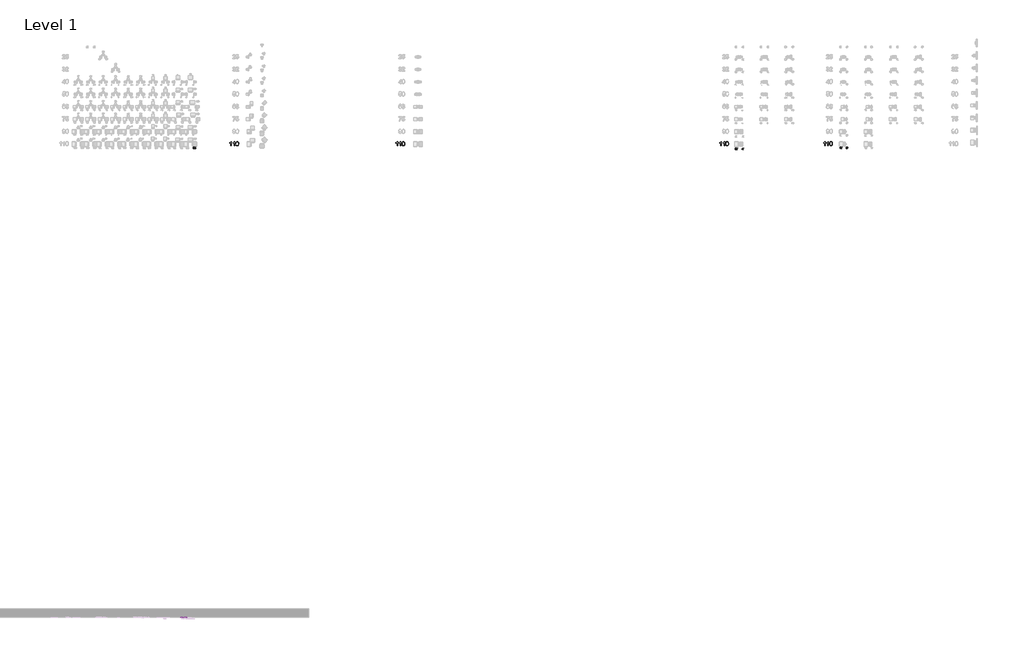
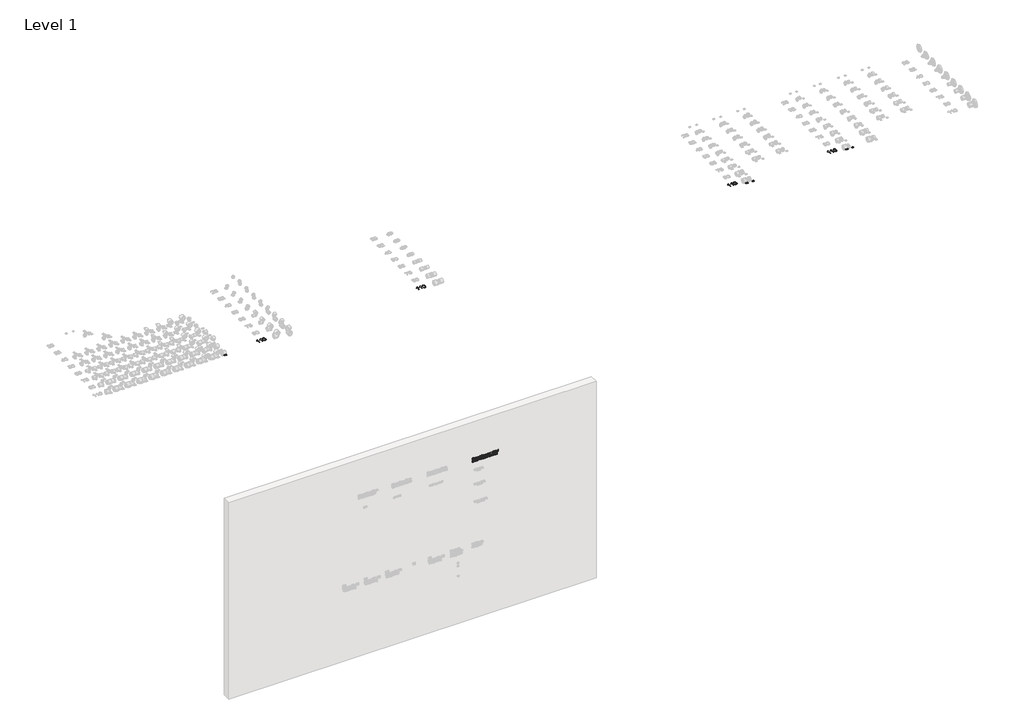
# One storey, part 18 of 58: 10 proxies.
"""IFC4 building model written with IfcOpenShell, lengths in millimetres."""

import ifcopenshell
import ifcopenshell.guid

model = None  # the IFC model being written
_history = None  # IfcOwnerHistory: only IFC2X3 demands one
_inside = {}  # id of a spatial element -> (the spatial element, [elements in it])
_under = {}  # id of a project, library or spatial element -> (it, [spatial elements below it])
_declared = {}  # id of a project -> (the project, [libraries it declares])
_typed = {}  # id of a type object -> (the type object, [elements of that type])
_made_of = {}  # id of a material, layer set ... -> (it, [elements and type objects made of it])


def new_model(schema):
    """Start an empty IFC model of exactly this schema.

    Asked for "IFC4X3", IfcOpenShell would pick the latest addendum, in which some entities
    have other attributes; the version numbers below select the first issue.
    IFC2X3 requires an IfcOwnerHistory on every rooted entity: one is made here for all.
    """
    global model, _history
    if schema == "IFC4X3":
        model = ifcopenshell.file(schema_version=(4, 3, 0, 0))
    else:
        model = ifcopenshell.file(schema=schema)
    _inside.clear()
    _under.clear()
    _declared.clear()
    _typed.clear()
    _made_of.clear()
    _history = None
    if model.schema == "IFC2X3":
        org = make("IfcOrganization", Name="unknown")
        user = make(
            "IfcPersonAndOrganization",
            ThePerson=make("IfcPerson", FamilyName="unknown"),
            TheOrganization=org,
        )
        app = make(
            "IfcApplication",
            ApplicationDeveloper=org,
            Version="unknown",
            ApplicationFullName="unknown",
            ApplicationIdentifier="unknown",
        )
        _history = make(
            "IfcOwnerHistory",
            OwningUser=user,
            OwningApplication=app,
            ChangeAction="ADDED",
            CreationDate=0,
        )
    return model


def make(cls, **values):
    """One entity of the class cls with the attributes given. An attribute that is None is left unset."""
    return model.create_entity(
        cls, **{name: value for name, value in values.items() if value is not None}
    )


def rooted(cls, **values):
    """An entity with a GlobalId (a new one), such as an element, a storey or a relation."""
    return make(cls, GlobalId=ifcopenshell.guid.new(), OwnerHistory=_history, **values)


def si_unit(unit_type, name, prefix=None):
    """IfcSIUnit, for example si_unit("LENGTHUNIT", "METRE", prefix="MILLI")."""
    return make("IfcSIUnit", UnitType=unit_type, Prefix=prefix, Name=name)


def assignment(units):
    """IfcUnitAssignment: the units of a project."""
    return None if units is None else make("IfcUnitAssignment", Units=units)


def point(xyz):
    """IfcCartesianPoint."""
    return None if xyz is None else make("IfcCartesianPoint", Coordinates=xyz)


def direction(xyz):
    """IfcDirection."""
    return None if xyz is None else make("IfcDirection", DirectionRatios=xyz)


def frame(location, z_axis=None, x_axis=None):
    """IfcAxis2Placement3D, a coordinate frame: its origin and axes. An axis left out is left unset."""
    return make(
        "IfcAxis2Placement3D",
        Location=point(location),
        Axis=direction(z_axis),
        RefDirection=direction(x_axis),
    )


def origin():
    """The frame at (0, 0, 0) with its axes left unset."""
    return frame((0.0, 0.0, 0.0))


def place(relative_to, where):
    """IfcLocalPlacement: puts the frame where relative to a parent placement (None: the world)."""
    return make(
        "IfcLocalPlacement", PlacementRelTo=relative_to, RelativePlacement=where
    )


def context(
    kind, dimensions, precision=None, world=None, true_north=None, identifier=None
):
    """IfcGeometricRepresentationContext, for example the 3D "Model" context."""
    return make(
        "IfcGeometricRepresentationContext",
        ContextIdentifier=identifier,
        ContextType=kind,
        CoordinateSpaceDimension=dimensions,
        Precision=precision,
        WorldCoordinateSystem=world,
        TrueNorth=true_north,
    )


def project(units=None, contexts=None):
    """IfcProject with its units and contexts."""
    return rooted(
        "IfcProject",
        Name="project",
        RepresentationContexts=contexts,
        UnitsInContext=assignment(units),
    )


def spatial(cls, under=None, at=None, **own):
    """A site, building, storey or space (cls), placed at a placement, below another one or the project."""
    s = rooted(cls, ObjectPlacement=at, **own)
    if under is not None:
        _under.setdefault(under.id(), (under, []))[1].append(s)
    return s


def polyline(points):
    """IfcPolyline through the points."""
    return make("IfcPolyline", Points=[point(p) for p in points])


def outline(outer, holes=None, kind="AREA"):
    """IfcArbitraryClosedProfileDef: a profile drawn as a closed curve; with holes, ...WithVoids."""
    if holes is None:
        return make("IfcArbitraryClosedProfileDef", ProfileType=kind, OuterCurve=outer)
    return make(
        "IfcArbitraryProfileDefWithVoids",
        ProfileType=kind,
        OuterCurve=outer,
        InnerCurves=holes,
    )


def extrude(swept, where, along, depth):
    """IfcExtrudedAreaSolid: the profile swept, set in the frame where, extruded along a direction by depth."""
    return make(
        "IfcExtrudedAreaSolid",
        SweptArea=swept,
        Position=where,
        ExtrudedDirection=direction(along),
        Depth=depth,
    )


def shape(context_of_items, identifier, shape_type, items):
    """IfcShapeRepresentation: the items that make up one representation, for example the "Body"."""
    return make(
        "IfcShapeRepresentation",
        ContextOfItems=context_of_items,
        RepresentationIdentifier=identifier,
        RepresentationType=shape_type,
        Items=items,
    )


def made_of(thing, what):
    """Note that an element or type object is made of a material, layer set ...; save() writes the relation."""
    if what is not None:
        _made_of.setdefault(what.id(), (what, []))[1].append(thing)
    return thing


def element(
    cls,
    number,
    at=None,
    inside=None,
    cuts=None,
    type_object=None,
    material=None,
    context=None,
    identifier="Body",
    shape_type=None,
    held_by="IfcProductDefinitionShape",
    body=None,
    shapes=None,
    **own,
):
    """One element of the class cls, such as IfcWall. Its Tag is "e" and its number.

    at: its placement. inside: the storey or other place that contains it. cuts: it is an
    opening in that element (IfcRelVoidsElement). A single representation is given by context,
    identifier, shape_type and body (its items); several are given by shapes. held_by: the class
    of the entity that holds the representations. save() writes the other relations.
    """
    e = rooted(cls, Tag="e%d" % number, ObjectPlacement=at, **own)
    if body is not None:
        shapes = [shape(context, identifier, shape_type, body)]
    if shapes is not None:
        e.Representation = make(held_by, Representations=shapes)
    if inside is not None:
        _inside.setdefault(inside.id(), (inside, []))[1].append(e)
    if cuts is not None:
        rooted(
            "IfcRelVoidsElement", RelatingBuildingElement=cuts, RelatedOpeningElement=e
        )
    if type_object is not None:
        _typed.setdefault(type_object.id(), (type_object, []))[1].append(e)
    return made_of(e, material)


def aggregate(whole, parts):
    """IfcRelAggregates: a whole, such as a stair, and the parts it consists of."""
    return rooted("IfcRelAggregates", RelatingObject=whole, RelatedObjects=parts)


def save(model, path):
    """Write the relations noted so far, then the file.

    IfcRelAggregates (storeys below a building ...), IfcRelContainedInSpatialStructure (elements
    in a storey), IfcRelDefinesByType, IfcRelAssociatesMaterial and IfcRelDeclares: one each for
    every whole, place, type object, material and project.
    """
    for whole, parts in _under.values():
        aggregate(whole, parts)
    for where, things in _inside.values():
        rooted(
            "IfcRelContainedInSpatialStructure",
            RelatedElements=things,
            RelatingStructure=where,
        )
    for kind, things in _typed.values():
        rooted("IfcRelDefinesByType", RelatedObjects=things, RelatingType=kind)
    for what, things in _made_of.values():
        rooted("IfcRelAssociatesMaterial", RelatedObjects=things, RelatingMaterial=what)
    for by, libraries in _declared.values():
        rooted("IfcRelDeclares", RelatingContext=by, RelatedDefinitions=libraries)
    model.write(path)


model = new_model("IFC4")

# Units and contexts
model_context = context("Model", 3, world=origin())
ifc_project = project(units=[si_unit("LENGTHUNIT", "METRE", prefix="MILLI")], contexts=[model_context])

# Site, building, storey
site = spatial("IfcSite", under=ifc_project)
building = spatial("IfcBuilding", under=site)
storey = spatial("IfcBuildingStorey", under=building, Name="Level 1", Elevation=27.3876384)

# Proxies
placement = place(None, origin())
element("IfcBuildingElementProxy", 1, Name="100mm Arial", ObjectType="100mm Arial", at=placement, inside=storey, context=model_context, shape_type="SweptSolid", body=[
    extrude(outline(polyline([(16954.6585102, 15906.196048), (16942.1014715, 15906.196048), (16942.1014715, 15984.4813365), (16930.2066203, 15976.0077879), (16916.9873939, 15969.6679549), (16916.9873939, 15981.5382806), (16935.3937564, 15993.285979), (16946.5651063, 16006.6523581), (16954.6585102, 16006.6523581), (16954.6585102, 15906.196048)])), frame((0.0, 0.0, 27.3876384), z_axis=(0.0, 0.0, 1.0), x_axis=(1.0, 0.0, 0.0)), (0.0, 0.0, 1.0), 2.0),
    extrude(outline(polyline([(17031.5703727, 15906.196048), (17019.0133339, 15906.196048), (17019.0133339, 15984.4813365), (17007.1184827, 15976.0077879), (16993.8992564, 15969.6679549), (16993.8992564, 15981.5382806), (17012.3056189, 15993.285979), (17023.4769688, 16006.6523581), (17031.5703727, 16006.6523581), (17031.5703727, 15906.196048)])), frame((0.0, 0.0, 27.3876384), z_axis=(0.0, 0.0, 1.0), x_axis=(1.0, 0.0, 0.0)), (0.0, 0.0, 1.0), 2.0),
    extrude(outline(polyline([(17061.3933398, 15955.6148627), (17065.0844224, 15984.5181247), (17076.0473059, 16001.1831791), (17094.3555665, 16006.6523581), (17109.0217954, 16003.4149966), (17119.150813, 15994.0830566), (17125.0369249, 15979.220624), (17127.3177933, 15955.6148627), (17123.6634988, 15926.8342279), (17112.7374036, 15910.1323853), (17104.5060439, 15906.0029099), (17094.3555665, 15904.6264181), (17081.3080184, 15907.0176511), (17071.39973, 15914.19135), (17063.8949373, 15931.1813668), (17061.3933398, 15955.6148627)]), holes=[polyline([(17073.9503785, 15955.6393881), (17075.4219065, 15935.8871907), (17079.8364905, 15924.4552577), (17086.4093154, 15919.0014071), (17094.3555665, 15917.1834569), (17102.3018176, 15919.0075385), (17108.8746426, 15924.4797831), (17113.2892265, 15935.9178475), (17114.7607545, 15955.6393881), (17113.3382775, 15974.9470615), (17109.0708463, 15986.4678993), (17102.5102841, 15992.1884643), (17094.2084137, 15994.0953193), (17086.3480018, 15992.4153249), (17080.0326942, 15987.3753416), (17075.4709574, 15975.1371339), (17073.9503785, 15955.6393881)])]), frame((0.0, 0.0, 27.3876384), z_axis=(0.0, 0.0, 1.0), x_axis=(1.0, 0.0, 0.0)), (0.0, 0.0, 1.0), 2.0),
])
element("IfcBuildingElementProxy", 2, Name="100mm Arial", ObjectType="100mm Arial", at=placement, inside=storey, context=model_context, shape_type="SweptSolid", body=[
    extrude(outline(polyline([(20954.6585102, 15906.196048), (20942.1014715, 15906.196048), (20942.1014715, 15984.4813365), (20930.2066203, 15976.0077879), (20916.9873939, 15969.6679549), (20916.9873939, 15981.5382806), (20935.3937564, 15993.285979), (20946.5651063, 16006.6523581), (20954.6585102, 16006.6523581), (20954.6585102, 15906.196048)])), frame((0.0, 0.0, 27.3876384), z_axis=(0.0, 0.0, 1.0), x_axis=(1.0, 0.0, 0.0)), (0.0, 0.0, 1.0), 2.0),
    extrude(outline(polyline([(21031.5703727, 15906.196048), (21019.0133339, 15906.196048), (21019.0133339, 15984.4813365), (21007.1184827, 15976.0077879), (20993.8992564, 15969.6679549), (20993.8992564, 15981.5382806), (21012.3056189, 15993.285979), (21023.4769688, 16006.6523581), (21031.5703727, 16006.6523581), (21031.5703727, 15906.196048)])), frame((0.0, 0.0, 27.3876384), z_axis=(0.0, 0.0, 1.0), x_axis=(1.0, 0.0, 0.0)), (0.0, 0.0, 1.0), 2.0),
    extrude(outline(polyline([(21061.3933398, 15955.6148627), (21065.0844224, 15984.5181247), (21076.0473059, 16001.1831791), (21094.3555665, 16006.6523581), (21109.0217954, 16003.4149966), (21119.150813, 15994.0830566), (21125.0369249, 15979.220624), (21127.3177933, 15955.6148627), (21123.6634988, 15926.8342279), (21112.7374036, 15910.1323853), (21104.5060439, 15906.0029099), (21094.3555665, 15904.6264181), (21081.3080184, 15907.0176511), (21071.39973, 15914.19135), (21063.8949373, 15931.1813668), (21061.3933398, 15955.6148627)]), holes=[polyline([(21073.9503785, 15955.6393881), (21075.4219065, 15935.8871907), (21079.8364905, 15924.4552577), (21086.4093154, 15919.0014071), (21094.3555665, 15917.1834569), (21102.3018176, 15919.0075385), (21108.8746426, 15924.4797831), (21113.2892265, 15935.9178475), (21114.7607545, 15955.6393881), (21113.3382775, 15974.9470615), (21109.0708463, 15986.4678993), (21102.5102841, 15992.1884643), (21094.2084137, 15994.0953193), (21086.3480018, 15992.4153249), (21080.0326942, 15987.3753416), (21075.4709574, 15975.1371339), (21073.9503785, 15955.6393881)])]), frame((0.0, 0.0, 27.3876384), z_axis=(0.0, 0.0, 1.0), x_axis=(1.0, 0.0, 0.0)), (0.0, 0.0, 1.0), 2.0),
])
element("IfcBuildingElementProxy", 3, Name="100mm Arial", ObjectType="100mm Arial", at=placement, inside=storey, context=model_context, shape_type="SweptSolid", body=[
    extrude(outline(polyline([(28754.6585102, 15906.196048), (28742.1014715, 15906.196048), (28742.1014715, 15984.4813365), (28730.2066203, 15976.0077879), (28716.9873939, 15969.6679549), (28716.9873939, 15981.5382806), (28735.3937564, 15993.285979), (28746.5651063, 16006.6523581), (28754.6585102, 16006.6523581), (28754.6585102, 15906.196048)])), frame((0.0, 0.0, 27.3876384), z_axis=(0.0, 0.0, 1.0), x_axis=(1.0, 0.0, 0.0)), (0.0, 0.0, 1.0), 2.0),
    extrude(outline(polyline([(28831.5703727, 15906.196048), (28819.0133339, 15906.196048), (28819.0133339, 15984.4813365), (28807.1184827, 15976.0077879), (28793.8992564, 15969.6679549), (28793.8992564, 15981.5382806), (28812.3056189, 15993.285979), (28823.4769688, 16006.6523581), (28831.5703727, 16006.6523581), (28831.5703727, 15906.196048)])), frame((0.0, 0.0, 27.3876384), z_axis=(0.0, 0.0, 1.0), x_axis=(1.0, 0.0, 0.0)), (0.0, 0.0, 1.0), 2.0),
    extrude(outline(polyline([(28861.3933398, 15955.6148627), (28865.0844224, 15984.5181247), (28876.0473059, 16001.1831791), (28894.3555665, 16006.6523581), (28909.0217954, 16003.4149966), (28919.150813, 15994.0830566), (28925.0369249, 15979.220624), (28927.3177933, 15955.6148627), (28923.6634988, 15926.8342279), (28912.7374036, 15910.1323853), (28904.5060439, 15906.0029099), (28894.3555665, 15904.6264181), (28881.3080184, 15907.0176511), (28871.39973, 15914.19135), (28863.8949373, 15931.1813668), (28861.3933398, 15955.6148627)]), holes=[polyline([(28873.9503785, 15955.6393881), (28875.4219065, 15935.8871907), (28879.8364905, 15924.4552577), (28886.4093154, 15919.0014071), (28894.3555665, 15917.1834569), (28902.3018176, 15919.0075385), (28908.8746426, 15924.4797831), (28913.2892265, 15935.9178475), (28914.7607545, 15955.6393881), (28913.3382775, 15974.9470615), (28909.0708463, 15986.4678993), (28902.5102841, 15992.1884643), (28894.2084137, 15994.0953193), (28886.3480018, 15992.4153249), (28880.0326942, 15987.3753416), (28875.4709574, 15975.1371339), (28873.9503785, 15955.6393881)])]), frame((0.0, 0.0, 27.3876384), z_axis=(0.0, 0.0, 1.0), x_axis=(1.0, 0.0, 0.0)), (0.0, 0.0, 1.0), 2.0),
])
element("IfcBuildingElementProxy", 4, Name="100mm Arial", ObjectType="100mm Arial", at=placement, inside=storey, context=model_context, shape_type="SweptSolid", body=[
    extrude(outline(polyline([(31254.6585102, 15906.196048), (31242.1014715, 15906.196048), (31242.1014715, 15984.4813365), (31230.2066203, 15976.0077879), (31216.9873939, 15969.6679549), (31216.9873939, 15981.5382806), (31235.3937564, 15993.285979), (31246.5651063, 16006.6523581), (31254.6585102, 16006.6523581), (31254.6585102, 15906.196048)])), frame((0.0, 0.0, 27.3876384), z_axis=(0.0, 0.0, 1.0), x_axis=(1.0, 0.0, 0.0)), (0.0, 0.0, 1.0), 2.0),
    extrude(outline(polyline([(31331.5703727, 15906.196048), (31319.0133339, 15906.196048), (31319.0133339, 15984.4813365), (31307.1184827, 15976.0077879), (31293.8992564, 15969.6679549), (31293.8992564, 15981.5382806), (31312.3056189, 15993.285979), (31323.4769688, 16006.6523581), (31331.5703727, 16006.6523581), (31331.5703727, 15906.196048)])), frame((0.0, 0.0, 27.3876384), z_axis=(0.0, 0.0, 1.0), x_axis=(1.0, 0.0, 0.0)), (0.0, 0.0, 1.0), 2.0),
    extrude(outline(polyline([(31361.3933398, 15955.6148627), (31365.0844224, 15984.5181247), (31376.0473059, 16001.1831791), (31394.3555665, 16006.6523581), (31409.0217954, 16003.4149966), (31419.150813, 15994.0830566), (31425.0369249, 15979.220624), (31427.3177933, 15955.6148627), (31423.6634988, 15926.8342279), (31412.7374036, 15910.1323853), (31404.5060439, 15906.0029099), (31394.3555665, 15904.6264181), (31381.3080184, 15907.0176511), (31371.39973, 15914.19135), (31363.8949373, 15931.1813668), (31361.3933398, 15955.6148627)]), holes=[polyline([(31373.9503785, 15955.6393881), (31375.4219065, 15935.8871907), (31379.8364905, 15924.4552577), (31386.4093154, 15919.0014071), (31394.3555665, 15917.1834569), (31402.3018176, 15919.0075385), (31408.8746426, 15924.4797831), (31413.2892265, 15935.9178475), (31414.7607545, 15955.6393881), (31413.3382775, 15974.9470615), (31409.0708463, 15986.4678993), (31402.5102841, 15992.1884643), (31394.2084137, 15994.0953193), (31386.3480018, 15992.4153249), (31380.0326942, 15987.3753416), (31375.4709574, 15975.1371339), (31373.9503785, 15955.6393881)])]), frame((0.0, 0.0, 27.3876384), z_axis=(0.0, 0.0, 1.0), x_axis=(1.0, 0.0, 0.0)), (0.0, 0.0, 1.0), 2.0),
])
element("IfcBuildingElementProxy", 5, Name="30mm Arial", ObjectType="30mm Arial", at=placement, inside=storey, context=model_context, shape_type="SweptSolid", body=[
    extrude(outline(polyline([(16041.4120986, 15842.5788539), (16037.644987, 15842.5788539), (16037.644987, 15866.0644405), (16034.0765317, 15863.5223759), (16030.1107637, 15861.620426), (16030.1107637, 15865.1815237), (16035.6326725, 15868.7058332), (16038.9840775, 15872.715747), (16041.4120986, 15872.715747), (16041.4120986, 15842.5788539)])), frame((0.0, 0.0, 27.3876384), z_axis=(0.0, 0.0, 1.0), x_axis=(1.0, 0.0, 0.0)), (0.0, 0.0, 1.0), 2.0),
    extrude(outline(polyline([(16064.4856574, 15842.5788539), (16060.7185457, 15842.5788539), (16060.7185457, 15866.0644405), (16057.1500904, 15863.5223759), (16053.1843225, 15861.620426), (16053.1843225, 15865.1815237), (16058.7062312, 15868.7058332), (16062.0576362, 15872.715747), (16064.4856574, 15872.715747), (16064.4856574, 15842.5788539)])), frame((0.0, 0.0, 27.3876384), z_axis=(0.0, 0.0, 1.0), x_axis=(1.0, 0.0, 0.0)), (0.0, 0.0, 1.0), 2.0),
    extrude(outline(polyline([(16073.4325475, 15857.4044983), (16074.5398723, 15866.075477), (16077.8287373, 15871.0749933), (16083.3212155, 15872.715747), (16087.7210842, 15871.7445385), (16090.7597895, 15868.9449565), (16092.525623, 15864.4862267), (16093.2098836, 15857.4044983), (16092.1135952, 15848.7703079), (16088.8357666, 15843.7597551), (16083.3212155, 15842.107965), (16076.4344646, 15844.9774445), (16073.4325475, 15857.4044983)]), holes=[polyline([(16077.1996591, 15857.411856), (16078.9654927, 15848.0566168), (16083.3212155, 15845.8750766), (16087.6769384, 15848.0639745), (16089.4427719, 15857.411856), (16087.7357995, 15866.6604093), (16083.2770697, 15868.9486353), (16079.0243538, 15866.932642), (16077.1996591, 15857.411856)])]), frame((0.0, 0.0, 27.3876384), z_axis=(0.0, 0.0, 1.0), x_axis=(1.0, 0.0, 0.0)), (0.0, 0.0, 1.0), 2.0),
])
element("IfcBuildingElementProxy", 6, Name="30mm Arial", ObjectType="30mm Arial", at=placement, inside=storey, context=model_context, shape_type="SweptSolid", body=[
    extrude(outline(polyline([(29096.6620986, 15819.4288539), (29092.894987, 15819.4288539), (29092.894987, 15842.9144405), (29089.3265317, 15840.3723759), (29085.3607637, 15838.470426), (29085.3607637, 15842.0315237), (29090.8826725, 15845.5558332), (29094.2340775, 15849.565747), (29096.6620986, 15849.565747), (29096.6620986, 15819.4288539)])), frame((0.0, 0.0, 27.3876384), z_axis=(0.0, 0.0, 1.0), x_axis=(1.0, 0.0, 0.0)), (0.0, 0.0, 1.0), 2.0),
    extrude(outline(polyline([(29119.7356574, 15819.4288539), (29115.9685457, 15819.4288539), (29115.9685457, 15842.9144405), (29112.4000904, 15840.3723759), (29108.4343225, 15838.470426), (29108.4343225, 15842.0315237), (29113.9562312, 15845.5558332), (29117.3076362, 15849.565747), (29119.7356574, 15849.565747), (29119.7356574, 15819.4288539)])), frame((0.0, 0.0, 27.3876384), z_axis=(0.0, 0.0, 1.0), x_axis=(1.0, 0.0, 0.0)), (0.0, 0.0, 1.0), 2.0),
    extrude(outline(polyline([(29128.6825475, 15834.2544983), (29129.7898723, 15842.925477), (29133.0787373, 15847.9249933), (29138.5712155, 15849.565747), (29142.9710842, 15848.5945385), (29146.0097895, 15845.7949565), (29147.775623, 15841.3362267), (29148.4598836, 15834.2544983), (29147.3635952, 15825.6203079), (29144.0857666, 15820.6097551), (29138.5712155, 15818.957965), (29131.6844646, 15821.8274445), (29128.6825475, 15834.2544983)]), holes=[polyline([(29132.4496591, 15834.261856), (29134.2154927, 15824.9066168), (29138.5712155, 15822.7250766), (29142.9269384, 15824.9139745), (29144.6927719, 15834.261856), (29142.9857995, 15843.5104093), (29138.5270697, 15845.7986353), (29134.2743538, 15843.782642), (29132.4496591, 15834.261856)])]), frame((0.0, 0.0, 27.3876384), z_axis=(0.0, 0.0, 1.0), x_axis=(1.0, 0.0, 0.0)), (0.0, 0.0, 1.0), 2.0),
])
element("IfcBuildingElementProxy", 7, Name="30mm Arial", ObjectType="30mm Arial", at=placement, inside=storey, context=model_context, shape_type="SweptSolid", body=[
    extrude(outline(polyline([(29263.5285428, 15819.4288539), (29263.5285428, 15826.4921882), (29249.8727632, 15826.4921882), (29249.8727632, 15830.2592999), (29264.4703207, 15849.094858), (29267.2956545, 15849.094858), (29267.2956545, 15830.2592999), (29271.0627661, 15830.2592999), (29271.0627661, 15826.4921882), (29267.2956545, 15826.4921882), (29267.2956545, 15819.4288539), (29263.5285428, 15819.4288539)]), holes=[polyline([(29263.5285428, 15830.2592999), (29263.5285428, 15841.8990862), (29254.5080763, 15830.2592999), (29263.5285428, 15830.2592999)])]), frame((0.0, 0.0, 27.3876384), z_axis=(0.0, 0.0, 1.0), x_axis=(1.0, 0.0, 0.0)), (0.0, 0.0, 1.0), 2.0),
    extrude(outline(polyline([(29274.3589888, 15834.2544983), (29275.4663136, 15842.925477), (29278.7551786, 15847.9249933), (29284.2476568, 15849.565747), (29288.6475255, 15848.5945385), (29291.6862307, 15845.7949565), (29293.4520643, 15841.3362267), (29294.1363248, 15834.2544983), (29293.0400365, 15825.6203079), (29289.7622079, 15820.6097551), (29284.2476568, 15818.957965), (29277.3609058, 15821.8274445), (29274.3589888, 15834.2544983)]), holes=[polyline([(29278.1261004, 15834.261856), (29279.891934, 15824.9066168), (29284.2476568, 15822.7250766), (29288.6033796, 15824.9139745), (29290.3692132, 15834.261856), (29288.6622407, 15843.5104093), (29284.203511, 15845.7986353), (29279.9507951, 15843.782642), (29278.1261004, 15834.261856)])]), frame((0.0, 0.0, 27.3876384), z_axis=(0.0, 0.0, 1.0), x_axis=(1.0, 0.0, 0.0)), (0.0, 0.0, 1.0), 2.0),
])
element("IfcBuildingElementProxy", 8, Name="30mm Arial", ObjectType="30mm Arial", at=placement, inside=storey, context=model_context, shape_type="SweptSolid", body=[
    extrude(outline(polyline([(31616.6620986, 15843.5788539), (31612.894987, 15843.5788539), (31612.894987, 15867.0644405), (31609.3265317, 15864.5223759), (31605.3607637, 15862.620426), (31605.3607637, 15866.1815237), (31610.8826725, 15869.7058332), (31614.2340775, 15873.715747), (31616.6620986, 15873.715747), (31616.6620986, 15843.5788539)])), frame((0.0, 0.0, 27.3876384), z_axis=(0.0, 0.0, 1.0), x_axis=(1.0, 0.0, 0.0)), (0.0, 0.0, 1.0), 2.0),
    extrude(outline(polyline([(31639.7356574, 15843.5788539), (31635.9685457, 15843.5788539), (31635.9685457, 15867.0644405), (31632.4000904, 15864.5223759), (31628.4343225, 15862.620426), (31628.4343225, 15866.1815237), (31633.9562312, 15869.7058332), (31637.3076362, 15873.715747), (31639.7356574, 15873.715747), (31639.7356574, 15843.5788539)])), frame((0.0, 0.0, 27.3876384), z_axis=(0.0, 0.0, 1.0), x_axis=(1.0, 0.0, 0.0)), (0.0, 0.0, 1.0), 2.0),
    extrude(outline(polyline([(31648.6825475, 15858.4044983), (31649.7898723, 15867.075477), (31653.0787373, 15872.0749933), (31658.5712155, 15873.715747), (31662.9710842, 15872.7445385), (31666.0097895, 15869.9449565), (31667.775623, 15865.4862267), (31668.4598836, 15858.4044983), (31667.3635952, 15849.7703079), (31664.0857666, 15844.7597551), (31658.5712155, 15843.107965), (31651.6844646, 15845.9774445), (31648.6825475, 15858.4044983)]), holes=[polyline([(31652.4496591, 15858.411856), (31654.2154927, 15849.0566168), (31658.5712155, 15846.8750766), (31662.9269384, 15849.0639745), (31664.6927719, 15858.411856), (31662.9857995, 15867.6604093), (31658.5270697, 15869.9486353), (31654.2743538, 15867.932642), (31652.4496591, 15858.411856)])]), frame((0.0, 0.0, 27.3876384), z_axis=(0.0, 0.0, 1.0), x_axis=(1.0, 0.0, 0.0)), (0.0, 0.0, 1.0), 2.0),
])
element("IfcBuildingElementProxy", 9, Name="30mm Arial", ObjectType="30mm Arial", at=placement, inside=storey, context=model_context, shape_type="SweptSolid", body=[
    extrude(outline(polyline([(31770.4120986, 15843.5788539), (31766.644987, 15843.5788539), (31766.644987, 15867.0644405), (31763.0765317, 15864.5223759), (31759.1107637, 15862.620426), (31759.1107637, 15866.1815237), (31764.6326725, 15869.7058332), (31767.9840775, 15873.715747), (31770.4120986, 15873.715747), (31770.4120986, 15843.5788539)])), frame((0.0, 0.0, 27.3876384), z_axis=(0.0, 0.0, 1.0), x_axis=(1.0, 0.0, 0.0)), (0.0, 0.0, 1.0), 2.0),
    extrude(outline(polyline([(31779.3589888, 15851.5839661), (31783.1261004, 15852.0548551), (31785.0243715, 15848.1737001), (31788.9607088, 15846.8750766), (31793.6843137, 15848.6813772), (31795.3692132, 15853.4748796), (31793.7909994, 15857.9483247), (31789.01957, 15859.5890784), (31785.7123108, 15858.9342484), (31783.5969893, 15857.2346336), (31779.8298777, 15857.7055225), (31783.1261004, 15873.244858), (31797.723658, 15873.244858), (31797.723658, 15869.4777464), (31786.1721633, 15869.4777464), (31784.5608402, 15861.1783286), (31790.0717125, 15863.35619), (31796.5133262, 15860.6559361), (31799.1363248, 15853.7103241), (31796.7745224, 15846.7205662), (31788.9459936, 15843.107965), (31782.2983659, 15845.4293004), (31779.3589888, 15851.5839661)])), frame((0.0, 0.0, 27.3876384), z_axis=(0.0, 0.0, 1.0), x_axis=(1.0, 0.0, 0.0)), (0.0, 0.0, 1.0), 2.0),
])
element("IfcBuildingElementProxy", 10, Name="50mm Arial", ObjectType="50mm Arial", at=placement, inside=storey, context=model_context, shape_type="SweptSolid", body=[
    extrude(outline(polyline([(4249.9344329, 15717.0076035), (4236.6687833, 15723.1691404), (4232.1203799, 15737.9720111), (4233.9675757, 15749.0235561), (4239.6103795, 15755.8809543), (4247.7582844, 15758.3038174), (4255.8176251, 15756.2541891), (4260.9606738, 15750.5860813), (4264.5538493, 15739.4080161), (4267.8750062, 15729.8873663), (4270.9241445, 15728.3438191), (4274.036543, 15730.0391906), (4275.8457827, 15737.3014537), (4274.1440852, 15744.0386577), (4268.5582156, 15746.9676018), (4268.5582156, 15756.684358), (4280.3372521, 15751.6045694), (4284.7528093, 15737.1875855), (4282.9815256, 15727.1798327), (4277.8321509, 15720.8285155), (4270.5698878, 15718.6270629), (4260.3343985, 15723.4221809), (4255.3621522, 15735.2897815), (4253.1986557, 15743.716031), (4251.0161812, 15747.5053129), (4247.9733688, 15748.5870612), (4243.1086647, 15745.9807437), (4241.0274064, 15738.2250516), (4243.3806833, 15730.5199676), (4250.7441626, 15726.7243597), (4249.9344329, 15717.0076035)])), frame((0.0, 4542.8703674, 0.0), z_axis=(0.0, 1.0, 0.0), x_axis=(0.0, 0.0, 1.0)), (0.0, 0.0, 1.0), 2.0),
    extrude(outline(polyline([(4232.9301096, 15789.883275), (4232.9301096, 15799.6000312), (4270.177675, 15799.6000312), (4270.177675, 15789.883275), (4254.3752941, 15789.883275), (4244.2599991, 15789.1684355), (4240.7996699, 15786.51151), (4239.407947, 15782.1149308), (4240.4517392, 15778.5660375), (4243.2731411, 15776.6429295), (4252.9582672, 15776.1178704), (4270.177675, 15776.1178704), (4270.177675, 15766.4011142), (4246.632254, 15766.4011142), (4238.3894589, 15767.6663168), (4233.7651433, 15771.7655733), (4232.1203799, 15778.1548466), (4233.7967734, 15784.8034864), (4238.3957849, 15789.883275), (4232.9301096, 15789.883275)])), frame((0.0, 4542.8703674, 0.0), z_axis=(0.0, 1.0, 0.0), x_axis=(0.0, 0.0, 1.0)), (0.0, 0.0, 1.0), 2.0),
    extrude(outline(polyline([(4270.177675, 15809.3167874), (4219.164705, 15809.3167874), (4219.164705, 15819.0335435), (4237.446883, 15819.0335435), (4233.3223224, 15824.1955703), (4232.1203799, 15829.6738977), (4237.2824066, 15840.4850541), (4251.7689767, 15844.9448934), (4265.9076161, 15840.6242264), (4270.9874047, 15830.1167186), (4269.2793811, 15823.6515331), (4264.8132158, 15819.0335435), (4270.177675, 15819.0335435), (4270.177675, 15809.3167874)]), holes=[polyline([(4252.1991456, 15819.0335435), (4260.7961975, 15821.3678424), (4263.6998375, 15827.2320566), (4260.7392634, 15832.9317944), (4251.6804125, 15835.2281372), (4242.273631, 15832.9950546), (4239.407947, 15827.4091849), (4242.5329975, 15821.4690586), (4252.1991456, 15819.0335435)])]), frame((0.0, 4542.8703674, 0.0), z_axis=(0.0, 1.0, 0.0), x_axis=(0.0, 0.0, 1.0)), (0.0, 0.0, 1.0), 2.0),
    extrude(outline(polyline([(4244.2663251, 15873.2854323), (4240.5592814, 15870.9954155), (4239.407947, 15867.2630678), (4241.9636563, 15861.8100444), (4249.1247032, 15859.5200277), (4249.1247032, 15883.8119181), (4265.6102935, 15879.3204488), (4270.9874047, 15866.5039462), (4265.7494658, 15854.5351293), (4251.2755477, 15849.8032715), (4238.4590451, 15853.3711429), (4233.7050462, 15859.1119998), (4232.1203799, 15867.3010238), (4234.8089355, 15877.2075604), (4242.6468658, 15883.0021885), (4244.2663251, 15873.2854323)]), holes=[polyline([(4254.792811, 15874.095162), (4254.792811, 15859.684504), (4261.3086045, 15861.7088282), (4263.6998375, 15866.921463), (4261.4287988, 15871.9316655), (4254.792811, 15874.095162)])]), frame((0.0, 4542.8703674, 0.0), z_axis=(0.0, 1.0, 0.0), x_axis=(0.0, 0.0, 1.0)), (0.0, 0.0, 1.0), 2.0),
    extrude(outline(polyline([(4232.9301096, 15900.8162415), (4244.0765447, 15900.8162415), (4256.1718819, 15901.6196451), (4260.1635962, 15903.8210977), (4261.2706485, 15907.2434708), (4259.6891452, 15911.7475922), (4268.9377764, 15914.5816461), (4270.9874047, 15908.6225417), (4269.8297442, 15904.7004135), (4264.9903442, 15900.8162415), (4270.177675, 15900.8162415), (4270.177675, 15891.0994853), (4232.9301096, 15891.0994853), (4232.9301096, 15900.8162415)])), frame((0.0, 4542.8703674, 0.0), z_axis=(0.0, 1.0, 0.0), x_axis=(0.0, 0.0, 1.0)), (0.0, 0.0, 1.0), 2.0),
    extrude(outline(polyline([(4270.177675, 15918.6302945), (4219.164705, 15918.6302945), (4219.164705, 15928.3470507), (4237.446883, 15928.3470507), (4233.3223224, 15933.5090774), (4232.1203799, 15938.9874048), (4237.2824066, 15949.7985613), (4251.7689767, 15954.2584005), (4265.9076161, 15949.9377335), (4270.9874047, 15939.4302257), (4269.2793811, 15932.9650403), (4264.8132158, 15928.3470507), (4270.177675, 15928.3470507), (4270.177675, 15918.6302945)]), holes=[polyline([(4252.1991456, 15928.3470507), (4260.7961975, 15930.6813495), (4263.6998375, 15936.5455637), (4260.7392634, 15942.2453016), (4251.6804125, 15944.5416443), (4242.273631, 15942.3085617), (4239.407947, 15936.7226921), (4242.5329975, 15930.7825657), (4252.1991456, 15928.3470507)])]), frame((0.0, 4542.8703674, 0.0), z_axis=(0.0, 1.0, 0.0), x_axis=(0.0, 0.0, 1.0)), (0.0, 0.0, 1.0), 2.0),
    extrude(outline(polyline([(15971.2627239, 4542.8703674), (15961.5459677, 4542.8703674), (15961.5459677, 4544.8703674), (15971.2627239, 4544.8703674), (15971.2627239, 4542.8703674)])), frame((0.0, 0.0, 4275.0360531), z_axis=(0.0, 0.0, 1.0), x_axis=(1.0, 0.0, 0.0)), (0.0, 0.0, 1.0), 8.9070265),
    extrude(outline(polyline([(15971.2627239, 4542.8703674), (15961.5459677, 4542.8703674), (15961.5459677, 4544.8703674), (15971.2627239, 4544.8703674), (15971.2627239, 4542.8703674)])), frame((0.0, 0.0, 4232.9301096), z_axis=(0.0, 0.0, 1.0), x_axis=(1.0, 0.0, 0.0)), (0.0, 0.0, 1.0), 37.2475654),
    extrude(outline(polyline([(4270.177675, 15980.97948), (4219.164705, 15980.97948), (4219.164705, 15990.6962362), (4237.446883, 15990.6962362), (4233.3223224, 15995.858263), (4232.1203799, 16001.3365903), (4237.2824066, 16012.1477468), (4251.7689767, 16016.6075861), (4265.9076161, 16012.2869191), (4270.9874047, 16001.7794113), (4269.2793811, 15995.3142258), (4264.8132158, 15990.6962362), (4270.177675, 15990.6962362), (4270.177675, 15980.97948)]), holes=[polyline([(4252.1991456, 15990.6962362), (4260.7961975, 15993.0305351), (4263.6998375, 15998.8947493), (4260.7392634, 16004.5944871), (4251.6804125, 16006.8908299), (4242.273631, 16004.6577472), (4239.407947, 15999.0718776), (4242.5329975, 15993.1317513), (4252.1991456, 15990.6962362)])]), frame((0.0, 4542.8703674, 0.0), z_axis=(0.0, 1.0, 0.0), x_axis=(0.0, 0.0, 1.0)), (0.0, 0.0, 1.0), 2.0),
    extrude(outline(polyline([(4244.2663251, 16044.948125), (4240.5592814, 16042.6581082), (4239.407947, 16038.9257604), (4241.9636563, 16033.4727371), (4249.1247032, 16031.1827204), (4249.1247032, 16055.4746108), (4265.6102935, 16050.9831415), (4270.9874047, 16038.1666389), (4265.7494658, 16026.197822), (4251.2755477, 16021.4659642), (4238.4590451, 16025.0338356), (4233.7050462, 16030.7746925), (4232.1203799, 16038.9637165), (4234.8089355, 16048.8702531), (4242.6468658, 16054.6648812), (4244.2663251, 16044.948125)]), holes=[polyline([(4254.792811, 16045.7578546), (4254.792811, 16031.3471967), (4261.3086045, 16033.3715209), (4263.6998375, 16038.5841557), (4261.4287988, 16043.5943581), (4254.792811, 16045.7578546)])]), frame((0.0, 4542.8703674, 0.0), z_axis=(0.0, 1.0, 0.0), x_axis=(0.0, 0.0, 1.0)), (0.0, 0.0, 1.0), 2.0),
    extrude(outline(polyline([(4270.177675, 16081.3859607), (4232.9301096, 16081.3859607), (4232.9301096, 16091.1027169), (4251.1616795, 16091.1027169), (4258.8983935, 16091.8618384), (4262.4662649, 16094.3669396), (4263.6998375, 16098.3017198), (4262.9217379, 16101.1800558), (4260.555809, 16102.7425811), (4253.4896523, 16103.2486621), (4232.9301096, 16103.2486621), (4232.9301096, 16112.9654183), (4250.946595, 16112.9654183), (4258.7022871, 16113.7435179), (4262.4283089, 16116.2865752), (4263.6998375, 16120.050553), (4261.5742971, 16124.1245055), (4254.3752941, 16125.1113635), (4232.9301096, 16125.1113635), (4232.9301096, 16134.8281197), (4256.728571, 16134.8281197), (4264.433655, 16133.8412617), (4269.3236632, 16129.691397), (4270.9874047, 16122.922563), (4269.5640517, 16116.9950887), (4265.2560367, 16111.8267359), (4269.5640517, 16107.7844135), (4270.9874047, 16101.9708074), (4265.1927766, 16091.1027169), (4270.177675, 16091.1027169), (4270.177675, 16081.3859607)])), frame((0.0, 4542.8703674, 0.0), z_axis=(0.0, 1.0, 0.0), x_axis=(0.0, 0.0, 1.0)), (0.0, 0.0, 1.0), 2.0),
    extrude(outline(polyline([(4258.8414594, 16152.6421727), (4262.6244153, 16154.691801), (4263.6998375, 16158.2217163), (4262.4472869, 16162.7701198), (4257.222, 16163.9783883), (4254.805463, 16154.9321895), (4252.5154463, 16147.5307541), (4248.7324904, 16143.5390398), (4243.1149907, 16142.1156869), (4235.2391044, 16145.3103235), (4232.1203799, 16154.0465477), (4233.4045606, 16159.9550439), (4236.017204, 16165.4966314), (4232.9301096, 16166.4075773), (4232.9301096, 16176.1243335), (4237.92766, 16174.2075515), (4245.164619, 16173.6951445), (4256.6526589, 16173.6951445), (4265.4647952, 16172.4552459), (4269.4248794, 16168.178861), (4270.9874047, 16158.9302298), (4268.4063913, 16148.6251544), (4260.4609188, 16143.7351462), (4258.8414594, 16152.6421727)]), holes=[polyline([(4249.9344329, 16163.9783883), (4248.1758013, 16163.9783883), (4243.8867643, 16163.6241316), (4240.9767983, 16161.4732871), (4239.407947, 16156.8299934), (4240.7553878, 16153.243144), (4243.9500245, 16151.8324431), (4247.0497709, 16153.5910747), (4248.5869921, 16158.5000609), (4249.9344329, 16163.9783883)])]), frame((0.0, 4542.8703674, 0.0), z_axis=(0.0, 1.0, 0.0), x_axis=(0.0, 0.0, 1.0)), (0.0, 0.0, 1.0), 2.0),
    extrude(outline(polyline([(4232.9301096, 16216.6108177), (4256.0580136, 16216.6108177), (4262.6813494, 16216.0984106), (4266.812236, 16214.2701928), (4269.8107662, 16210.3986727), (4270.9874047, 16204.755869), (4269.4438574, 16198.3444547), (4264.8132158, 16193.1286569), (4270.177675, 16193.1286569), (4270.177675, 16183.4119007), (4232.9301096, 16183.4119007), (4232.9301096, 16193.1286569), (4249.9217809, 16193.1286569), (4258.5441368, 16193.8561484), (4262.2891366, 16196.55103), (4263.6998375, 16200.9982172), (4262.7129795, 16204.3003961), (4259.9421857, 16206.2867642), (4252.0726253, 16206.8940615), (4232.9301096, 16206.8940615), (4232.9301096, 16216.6108177)])), frame((0.0, 4542.8703674, 0.0), z_axis=(0.0, 1.0, 0.0), x_axis=(0.0, 0.0, 1.0)), (0.0, 0.0, 1.0), 2.0),
    extrude(outline(polyline([(16236.04433, 4542.8703674), (16226.3275738, 4542.8703674), (16226.3275738, 4544.8703674), (16236.04433, 4544.8703674), (16236.04433, 4542.8703674)])), frame((0.0, 0.0, 4232.9301096), z_axis=(0.0, 0.0, 1.0), x_axis=(1.0, 0.0, 0.0)), (0.0, 0.0, 1.0), 37.2475654),
    extrude(outline(polyline([(16236.04433, 4542.8703674), (16226.3275738, 4542.8703674), (16226.3275738, 4544.8703674), (16236.04433, 4544.8703674), (16236.04433, 4542.8703674)])), frame((0.0, 0.0, 4275.0360531), z_axis=(0.0, 0.0, 1.0), x_axis=(1.0, 0.0, 0.0)), (0.0, 0.0, 1.0), 8.9070265),
    extrude(outline(polyline([(4270.177675, 16241.7124378), (4262.8901078, 16241.7124378), (4262.8901078, 16246.5708159), (4232.9301096, 16246.5708159), (4232.9301096, 16256.2875721), (4262.8901078, 16256.2875721), (4262.8901078, 16263.5751392), (4270.177675, 16263.5751392), (4270.177675, 16256.2875721), (4272.7460363, 16256.2875721), (4276.4910361, 16257.217496), (4277.4652421, 16260.2729604), (4276.921205, 16264.7897338), (4283.5382147, 16266.0043283), (4284.7528093, 16257.8817274), (4283.3421083, 16251.1888055), (4279.6919987, 16247.557674), (4272.8978606, 16246.5708159), (4270.177675, 16246.5708159), (4270.177675, 16241.7124378)])), frame((0.0, 4542.8703674, 0.0), z_axis=(0.0, 1.0, 0.0), x_axis=(0.0, 0.0, 1.0)), (0.0, 0.0, 1.0), 2.0),
    extrude(outline(polyline([(4252.0852774, 16266.814058), (4241.2045348, 16269.211617), (4234.4293747, 16276.2081875), (4232.1203799, 16285.8806616), (4237.6682934, 16299.4689378), (4251.6551085, 16304.871353), (4265.5090773, 16299.5258719), (4270.9874047, 16285.8047494), (4268.5708676, 16275.9994291), (4261.5679711, 16269.211617), (4252.0852774, 16266.814058)]), holes=[polyline([(4251.5538923, 16276.5308142), (4260.568461, 16279.2193697), (4263.6998375, 16285.8553575), (4260.568461, 16292.4786933), (4251.6298044, 16295.1545969), (4242.5393235, 16292.4786933), (4239.407947, 16285.8553575), (4242.5393235, 16279.2193697), (4251.5538923, 16276.5308142)])]), frame((0.0, 4542.8703674, 0.0), z_axis=(0.0, 1.0, 0.0), x_axis=(0.0, 0.0, 1.0)), (0.0, 0.0, 1.0), 2.0),
    extrude(outline(polyline([(16321.8756764, 4542.8703674), (16312.1589202, 4542.8703674), (16312.1589202, 4544.8703674), (16321.8756764, 4544.8703674), (16321.8756764, 4542.8703674)])), frame((0.0, 0.0, 4232.9301096), z_axis=(0.0, 0.0, 1.0), x_axis=(1.0, 0.0, 0.0)), (0.0, 0.0, 1.0), 51.01297),
    extrude(outline(polyline([(4232.9301096, 16364.7913496), (4283.9430796, 16364.7913496), (4283.9430796, 16355.0745934), (4265.8886381, 16355.0745934), (4270.9874047, 16344.5228034), (4266.0657664, 16333.5155406), (4251.6930646, 16329.1632435), (4237.2824066, 16333.5218666), (4232.1203799, 16343.9914183), (4233.6449491, 16349.9441967), (4238.2945687, 16355.0745934), (4232.9301096, 16355.0745934), (4232.9301096, 16364.7913496)]), holes=[polyline([(4252.2624057, 16338.8799997), (4260.8278275, 16341.2079725), (4263.6998375, 16346.9772965), (4260.7961975, 16352.8035546), (4251.2881997, 16355.0745934), (4242.3874992, 16352.7339685), (4239.407947, 16347.0405567), (4243.3806833, 16340.4994591), (4252.2624057, 16338.8799997)])]), frame((0.0, 4542.8703674, 0.0), z_axis=(0.0, 1.0, 0.0), x_axis=(0.0, 0.0, 1.0)), (0.0, 0.0, 1.0), 2.0),
    extrude(outline(polyline([(4207.222, 15718.6270629), (4169.9744347, 15718.6270629), (4169.9744347, 15728.3438191), (4188.2060045, 15728.3438191), (4195.9427186, 15729.1029407), (4199.51059, 15731.6080419), (4200.7441626, 15735.5428221), (4199.966063, 15738.421158), (4197.6001341, 15739.9836833), (4190.5339774, 15740.4897643), (4169.9744347, 15740.4897643), (4169.9744347, 15750.2065205), (4187.9909201, 15750.2065205), (4195.7466122, 15750.9846201), (4199.4726339, 15753.5276774), (4200.7441626, 15757.2916553), (4198.6186222, 15761.3656077), (4191.4196192, 15762.3524658), (4169.9744347, 15762.3524658), (4169.9744347, 15772.069222), (4193.7728961, 15772.069222), (4201.4779801, 15771.0823639), (4206.3679883, 15766.9324993), (4208.0317297, 15760.1636652), (4206.6083768, 15754.2361909), (4202.3003618, 15749.0678382), (4206.6083768, 15745.0255158), (4208.0317297, 15739.2119097), (4202.2371017, 15728.3438191), (4207.222, 15728.3438191), (4207.222, 15718.6270629)])), frame((0.0, 4542.8703674, 0.0), z_axis=(0.0, 1.0, 0.0), x_axis=(0.0, 0.0, 1.0)), (0.0, 0.0, 1.0), 2.0),
    extrude(outline(polyline([(4195.8857845, 15789.883275), (4199.6687404, 15791.9329032), (4200.7441626, 15795.4628186), (4199.491612, 15800.011222), (4194.2663251, 15801.2194905), (4191.8497881, 15792.1732917), (4189.5597713, 15784.7718564), (4185.7768155, 15780.7801421), (4180.1593158, 15779.3567891), (4172.2834295, 15782.5514257), (4169.164705, 15791.2876499), (4170.4488856, 15797.1961462), (4173.0615291, 15802.7377337), (4169.9744347, 15803.6486796), (4169.9744347, 15813.3654358), (4174.971985, 15811.4486538), (4182.2089441, 15810.9362467), (4193.6969839, 15810.9362467), (4202.5091203, 15809.6963481), (4206.4692045, 15805.4199633), (4208.0317297, 15796.171332), (4205.4507164, 15785.8662566), (4197.5052439, 15780.9762485), (4195.8857845, 15789.883275)]), holes=[polyline([(4186.978758, 15801.2194905), (4185.2201263, 15801.2194905), (4180.9310894, 15800.8652338), (4178.0211234, 15798.7143893), (4176.4522721, 15794.0710957), (4177.7997129, 15790.4842462), (4180.9943496, 15789.0735453), (4184.094096, 15790.8321769), (4185.6313172, 15795.7411631), (4186.978758, 15801.2194905)])]), frame((0.0, 4542.8703674, 0.0), z_axis=(0.0, 1.0, 0.0), x_axis=(0.0, 0.0, 1.0)), (0.0, 0.0, 1.0), 2.0),
    extrude(outline(polyline([(15830.3697591, 4542.8703674), (15820.6530029, 4542.8703674), (15820.6530029, 4544.8703674), (15830.3697591, 4544.8703674), (15830.3697591, 4542.8703674)])), frame((0.0, 0.0, 4169.9744347), z_axis=(0.0, 0.0, 1.0), x_axis=(1.0, 0.0, 0.0)), (0.0, 0.0, 1.0), 51.01297),
    extrude(outline(polyline([(4181.3106502, 15861.139487), (4177.6036065, 15858.8494703), (4176.4522721, 15855.1171225), (4179.0079814, 15849.6640992), (4186.1690283, 15847.3740824), (4186.1690283, 15871.6659729), (4202.6546186, 15867.1745036), (4208.0317297, 15854.3580009), (4202.7937908, 15842.3891841), (4188.3198728, 15837.6573262), (4175.5033701, 15841.2251977), (4170.7493713, 15846.9660546), (4169.164705, 15855.1550786), (4171.8532606, 15865.0616152), (4179.6911908, 15870.8562432), (4181.3106502, 15861.139487)]), holes=[polyline([(4191.8371361, 15861.9492167), (4191.8371361, 15847.5385588), (4198.3529296, 15849.562883), (4200.7441626, 15854.7755178), (4198.4731239, 15859.7857202), (4191.8371361, 15861.9492167)])]), frame((0.0, 4542.8703674, 0.0), z_axis=(0.0, 1.0, 0.0), x_axis=(0.0, 0.0, 1.0)), (0.0, 0.0, 1.0), 2.0),
    extrude(outline(polyline([(4207.222, 15894.338404), (4199.9344329, 15894.338404), (4199.9344329, 15899.1967821), (4169.9744347, 15899.1967821), (4169.9744347, 15908.9135383), (4199.9344329, 15908.9135383), (4199.9344329, 15916.2011054), (4207.222, 15916.2011054), (4207.222, 15908.9135383), (4209.7903614, 15908.9135383), (4213.5353612, 15909.8434622), (4214.5095672, 15912.8989266), (4213.9655301, 15917.4157), (4220.5825398, 15918.6302945), (4221.7971343, 15910.5076936), (4220.3864334, 15903.8147717), (4216.7363238, 15900.1836402), (4209.9421857, 15899.1967821), (4207.222, 15899.1967821), (4207.222, 15894.338404)])), frame((0.0, 4542.8703674, 0.0), z_axis=(0.0, 1.0, 0.0), x_axis=(0.0, 0.0, 1.0)), (0.0, 0.0, 1.0), 2.0),
    extrude(outline(polyline([(4181.3106502, 15942.922185), (4177.6036065, 15940.6321682), (4176.4522721, 15936.8998205), (4179.0079814, 15931.4467971), (4186.1690283, 15929.1567804), (4186.1690283, 15953.4486708), (4202.6546186, 15948.9572015), (4208.0317297, 15936.1406989), (4202.7937908, 15924.171882), (4188.3198728, 15919.4400242), (4175.5033701, 15923.0078956), (4170.7493713, 15928.7487525), (4169.164705, 15936.9377765), (4171.8532606, 15946.8443131), (4179.6911908, 15952.6389412), (4181.3106502, 15942.922185)]), holes=[polyline([(4191.8371361, 15943.7319146), (4191.8371361, 15929.3212567), (4198.3529296, 15931.3455809), (4200.7441626, 15936.5582157), (4198.4731239, 15941.5684182), (4191.8371361, 15943.7319146)])]), frame((0.0, 4542.8703674, 0.0), z_axis=(0.0, 1.0, 0.0), x_axis=(0.0, 0.0, 1.0)), (0.0, 0.0, 1.0), 2.0),
    extrude(outline(polyline([(4207.222, 15959.9265083), (4169.9744347, 15959.9265083), (4169.9744347, 15969.6432645), (4188.2060045, 15969.6432645), (4195.9427186, 15970.4023861), (4199.51059, 15972.9074873), (4200.7441626, 15976.8422674), (4199.966063, 15979.7206034), (4197.6001341, 15981.2831287), (4190.5339774, 15981.7892097), (4169.9744347, 15981.7892097), (4169.9744347, 15991.5059659), (4187.9909201, 15991.5059659), (4195.7466122, 15992.2840655), (4199.4726339, 15994.8271228), (4200.7441626, 15998.5911006), (4198.6186222, 16002.6650531), (4191.4196192, 16003.6519112), (4169.9744347, 16003.6519112), (4169.9744347, 16013.3686673), (4193.7728961, 16013.3686673), (4201.4779801, 16012.3818093), (4206.3679883, 16008.2319447), (4208.0317297, 16001.4631106), (4206.6083768, 15995.5356363), (4202.3003618, 15990.3672836), (4206.6083768, 15986.3249612), (4208.0317297, 15980.5113551), (4202.2371017, 15969.6432645), (4207.222, 15969.6432645), (4207.222, 15959.9265083)])), frame((0.0, 4542.8703674, 0.0), z_axis=(0.0, 1.0, 0.0), x_axis=(0.0, 0.0, 1.0)), (0.0, 0.0, 1.0), 2.0),
    extrude(outline(polyline([(4195.8857845, 16031.1827204), (4199.6687404, 16033.2323486), (4200.7441626, 16036.762264), (4199.491612, 16041.3106674), (4194.2663251, 16042.5189359), (4191.8497881, 16033.4727371), (4189.5597713, 16026.0713017), (4185.7768155, 16022.0795874), (4180.1593158, 16020.6562345), (4172.2834295, 16023.8508711), (4169.164705, 16032.5870953), (4170.4488856, 16038.4955916), (4173.0615291, 16044.0371791), (4169.9744347, 16044.948125), (4169.9744347, 16054.6648812), (4174.971985, 16052.7480992), (4182.2089441, 16052.2356921), (4193.6969839, 16052.2356921), (4202.5091203, 16050.9957935), (4206.4692045, 16046.7194086), (4208.0317297, 16037.4707774), (4205.4507164, 16027.165702), (4197.5052439, 16022.2756939), (4195.8857845, 16031.1827204)]), holes=[polyline([(4186.978758, 16042.5189359), (4185.2201263, 16042.5189359), (4180.9310894, 16042.1646792), (4178.0211234, 16040.0138347), (4176.4522721, 16035.3705411), (4177.7997129, 16031.7836916), (4180.9943496, 16030.3729907), (4184.094096, 16032.1316223), (4185.6313172, 16037.0406085), (4186.978758, 16042.5189359)])]), frame((0.0, 4542.8703674, 0.0), z_axis=(0.0, 1.0, 0.0), x_axis=(0.0, 0.0, 1.0)), (0.0, 0.0, 1.0), 2.0),
    extrude(outline(polyline([(16071.6692045, 4542.8703674), (16061.9524483, 4542.8703674), (16061.9524483, 4544.8703674), (16071.6692045, 4544.8703674), (16071.6692045, 4542.8703674)])), frame((0.0, 0.0, 4169.9744347), z_axis=(0.0, 0.0, 1.0), x_axis=(1.0, 0.0, 0.0)), (0.0, 0.0, 1.0), 51.01297),
    extrude(outline(polyline([(4181.3106502, 16102.4389324), (4177.6036065, 16100.1489157), (4176.4522721, 16096.4165679), (4179.0079814, 16090.9635446), (4186.1690283, 16088.6735278), (4186.1690283, 16112.9654183), (4202.6546186, 16108.473949), (4208.0317297, 16095.6574463), (4202.7937908, 16083.6886295), (4188.3198728, 16078.9567716), (4175.5033701, 16082.524643), (4170.7493713, 16088.2655), (4169.164705, 16096.454524), (4171.8532606, 16106.3610606), (4179.6911908, 16112.1556886), (4181.3106502, 16102.4389324)]), holes=[polyline([(4191.8371361, 16103.2486621), (4191.8371361, 16088.8380042), (4198.3529296, 16090.8623284), (4200.7441626, 16096.0749632), (4198.4731239, 16101.0851656), (4191.8371361, 16103.2486621)])]), frame((0.0, 4542.8703674, 0.0), z_axis=(0.0, 1.0, 0.0), x_axis=(0.0, 0.0, 1.0)), (0.0, 0.0, 1.0), 2.0),
    extrude(outline(polyline([(4207.222, 16157.5005508), (4207.222, 16150.2129837), (4220.177675, 16150.2129837), (4214.5095672, 16140.4962275), (4207.222, 16140.4962275), (4207.222, 16135.6378494), (4199.9344329, 16135.6378494), (4199.9344329, 16140.4962275), (4183.4108866, 16140.4962275), (4176.3384039, 16140.8125282), (4172.4289278, 16142.2358811), (4170.0756509, 16145.4431698), (4169.164705, 16150.352156), (4170.4805157, 16158.3102805), (4177.3885221, 16157.9054157), (4176.4522721, 16153.3506862), (4176.9773312, 16151.4402302), (4178.305794, 16150.4343941), (4183.9549237, 16150.2129837), (4199.9344329, 16150.2129837), (4199.9344329, 16157.5005508), (4207.222, 16157.5005508)])), frame((0.0, 4542.8703674, 0.0), z_axis=(0.0, 1.0, 0.0), x_axis=(0.0, 0.0, 1.0)), (0.0, 0.0, 1.0), 2.0),
    extrude(outline(polyline([(4220.9874047, 16172.8854148), (4220.9874047, 16163.1686586), (4169.9744347, 16163.1686586), (4169.9744347, 16172.8854148), (4188.7626937, 16172.8854148), (4195.9237406, 16173.7520786), (4199.5422201, 16176.4912423), (4200.7441626, 16180.7423231), (4199.8079126, 16184.1836743), (4197.2838334, 16186.1067823), (4189.7875078, 16186.6508194), (4169.9744347, 16186.6508194), (4169.9744347, 16196.3675756), (4191.811832, 16196.3675756), (4199.2006154, 16195.8741466), (4203.5465864, 16194.0269507), (4206.7728531, 16190.0036064), (4208.0317297, 16184.0065459), (4202.5154463, 16172.8854148), (4220.9874047, 16172.8854148)])), frame((0.0, 4542.8703674, 0.0), z_axis=(0.0, 1.0, 0.0), x_axis=(0.0, 0.0, 1.0)), (0.0, 0.0, 1.0), 2.0),
    extrude(outline(polyline([(4169.9744347, 16215.801088), (4181.1208698, 16215.801088), (4193.2162069, 16216.6044916), (4197.2079212, 16218.8059442), (4198.3149735, 16222.2283173), (4196.7334703, 16226.7324387), (4205.9821015, 16229.5664926), (4208.0317297, 16223.6073882), (4206.8740693, 16219.68526), (4202.0346693, 16215.801088), (4207.222, 16215.801088), (4207.222, 16206.0843318), (4169.9744347, 16206.0843318), (4169.9744347, 16215.801088)])), frame((0.0, 4542.8703674, 0.0), z_axis=(0.0, 1.0, 0.0), x_axis=(0.0, 0.0, 1.0)), (0.0, 0.0, 1.0), 2.0),
    extrude(outline(polyline([(4181.3106502, 16254.6681127), (4177.6036065, 16252.378096), (4176.4522721, 16248.6457482), (4179.0079814, 16243.1927249), (4186.1690283, 16240.9027081), (4186.1690283, 16265.1945986), (4202.6546186, 16260.7031293), (4208.0317297, 16247.8866266), (4202.7937908, 16235.9178098), (4188.3198728, 16231.1859519), (4175.5033701, 16234.7538234), (4170.7493713, 16240.4946803), (4169.164705, 16248.6837043), (4171.8532606, 16258.5902409), (4179.6911908, 16264.3848689), (4181.3106502, 16254.6681127)]), holes=[polyline([(4191.8371361, 16255.4778424), (4191.8371361, 16241.0671845), (4198.3529296, 16243.0915087), (4200.7441626, 16248.3041435), (4198.4731239, 16253.3143459), (4191.8371361, 16255.4778424)])]), frame((0.0, 4542.8703674, 0.0), z_axis=(0.0, 1.0, 0.0), x_axis=(0.0, 0.0, 1.0)), (0.0, 0.0, 1.0), 2.0),
    extrude(outline(polyline([(4195.8857845, 16280.5794626), (4199.6687404, 16282.6290908), (4200.7441626, 16286.1590062), (4199.491612, 16290.7074096), (4194.2663251, 16291.9156781), (4191.8497881, 16282.8694793), (4189.5597713, 16275.468044), (4185.7768155, 16271.4763297), (4180.1593158, 16270.0529767), (4172.2834295, 16273.2476133), (4169.164705, 16281.9838375), (4170.4488856, 16287.8923338), (4173.0615291, 16293.4339213), (4169.9744347, 16294.3448672), (4169.9744347, 16304.0616234), (4174.971985, 16302.1448414), (4182.2089441, 16301.6324343), (4193.6969839, 16301.6324343), (4202.5091203, 16300.3925357), (4206.4692045, 16296.1161509), (4208.0317297, 16286.8675196), (4205.4507164, 16276.5624442), (4197.5052439, 16271.6724361), (4195.8857845, 16280.5794626)]), holes=[polyline([(4186.978758, 16291.9156781), (4185.2201263, 16291.9156781), (4180.9310894, 16291.5614214), (4178.0211234, 16289.4105769), (4176.4522721, 16284.7672833), (4177.7997129, 16281.1804338), (4180.9943496, 16279.7697329), (4184.094096, 16281.5283645), (4185.6313172, 16286.4373507), (4186.978758, 16291.9156781)])]), frame((0.0, 4542.8703674, 0.0), z_axis=(0.0, 1.0, 0.0), x_axis=(0.0, 0.0, 1.0)), (0.0, 0.0, 1.0), 2.0),
    extrude(outline(polyline([(4169.9744347, 16344.5481075), (4220.9874047, 16344.5481075), (4220.9874047, 16334.8313513), (4202.9329631, 16334.8313513), (4208.0317297, 16324.2795614), (4203.1100915, 16313.2722985), (4188.7373896, 16308.9200015), (4174.3267317, 16313.2786245), (4169.164705, 16323.7481763), (4170.6892741, 16329.7009546), (4175.3388938, 16334.8313513), (4169.9744347, 16334.8313513), (4169.9744347, 16344.5481075)]), holes=[polyline([(4189.3067308, 16318.6367576), (4197.8721526, 16320.9647305), (4200.7441626, 16326.7340545), (4197.8405226, 16332.5603126), (4188.3325248, 16334.8313513), (4179.4318243, 16332.4907264), (4176.4522721, 16326.7973146), (4180.4250084, 16320.256217), (4189.3067308, 16318.6367576)])]), frame((0.0, 4542.8703674, 0.0), z_axis=(0.0, 1.0, 0.0), x_axis=(0.0, 0.0, 1.0)), (0.0, 0.0, 1.0), 2.0),
])

save(model, "model.ifc")
